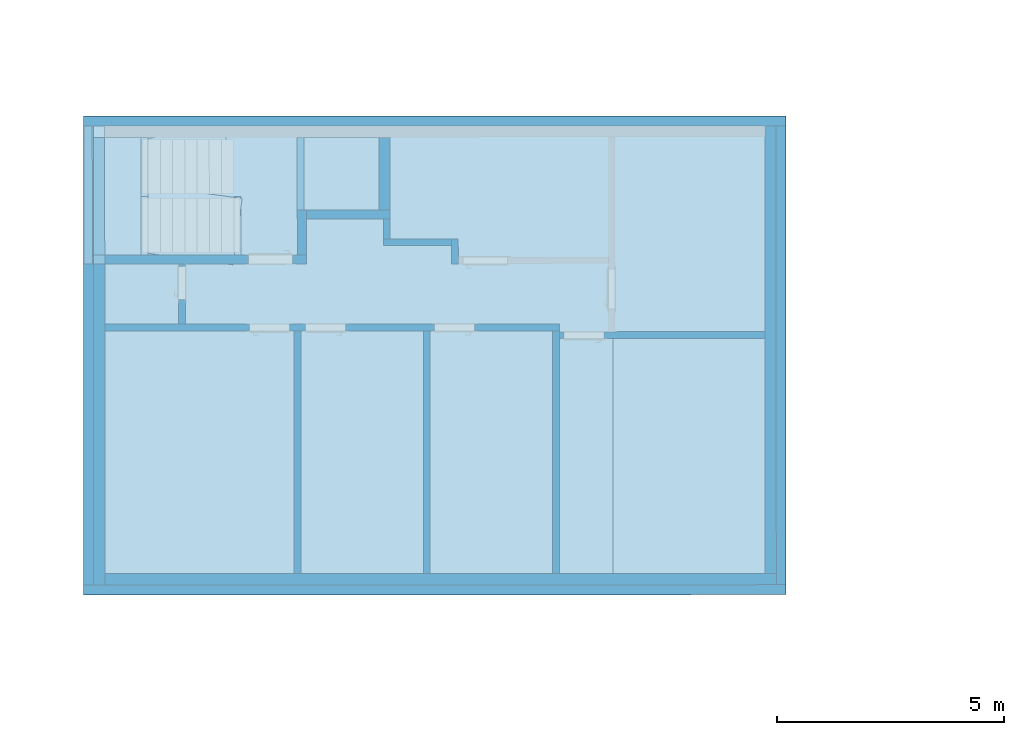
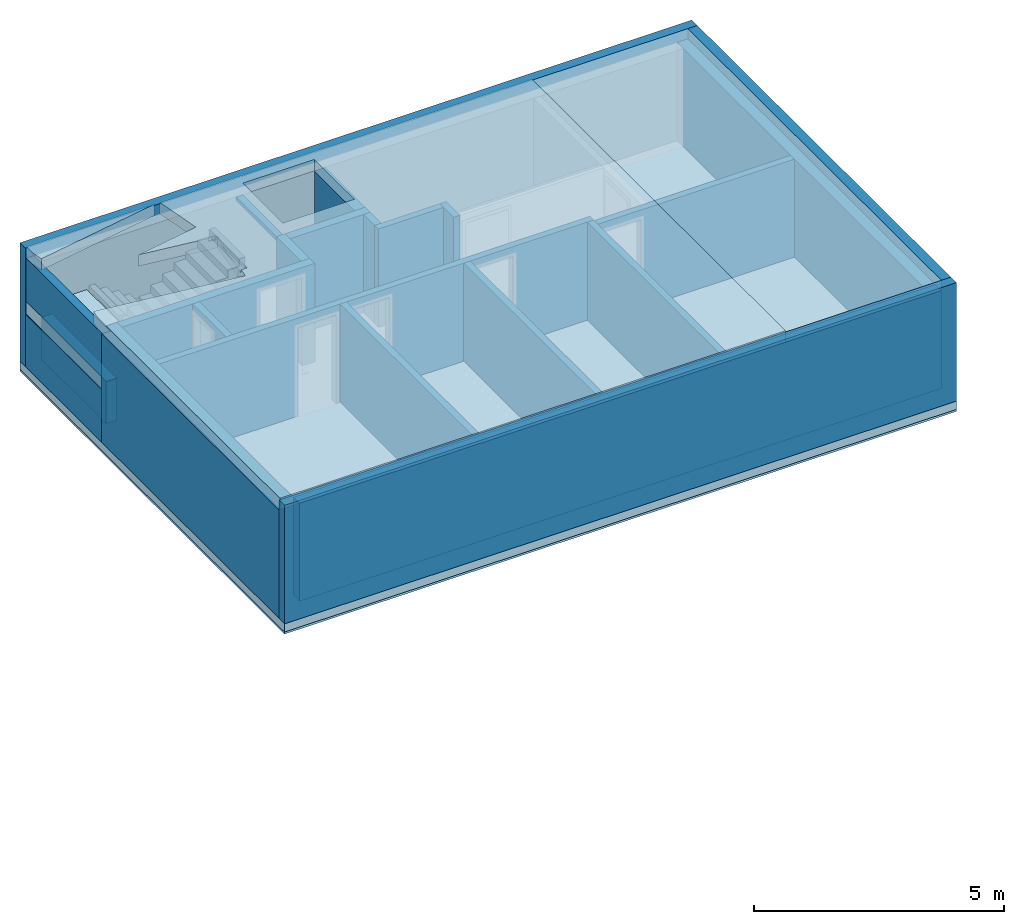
# One storey, part 1 of 9: 23 walls, 6 slabs, 1 beam, 12 openings.
"""IFC2X3 building model written with IfcOpenShell, lengths in metres."""

from ifc_helpers import new_model, entity, si_unit, converted_unit, derived_unit, direction, frame, frame_2d, origin, origin_with_axes, place, context, subcontext, project, spatial, polyline, rectangle, outline, extrude, faceted_brep, material, layer, layer_set, layer_usage, element, save


model = new_model("IFC2X3")

# Units and contexts
model_context = context("Model", 3, precision=1e-05, world=origin(), true_north=direction((0.772621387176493, -0.634867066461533)))
body_context = subcontext(model_context, "Body", "Model", "MODEL_VIEW")
ifc_project = project(units=[si_unit("LENGTHUNIT", "METRE"), si_unit("AREAUNIT", "SQUARE_METRE"), si_unit("VOLUMEUNIT", "CUBIC_METRE"), si_unit("MASSUNIT", "GRAM", prefix="KILO"), converted_unit("PLANEANGLEUNIT", "DEGREE", entity("IfcPlaneAngleMeasure", 0.0174532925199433), si_unit("PLANEANGLEUNIT", "RADIAN"), dimensions=[0, 0, 0, 0, 0, 0, 0]), derived_unit("THERMALTRANSMITTANCEUNIT", [(si_unit("POWERUNIT", "WATT"), 1), (si_unit("THERMODYNAMICTEMPERATUREUNIT", "KELVIN"), -1), (si_unit("LENGTHUNIT", "METRE"), -2)]), derived_unit("VOLUMETRICFLOWRATEUNIT", [(si_unit("LENGTHUNIT", "METRE"), 3), (converted_unit("TIMEUNIT", "hour", entity("IfcTimeMeasure", 3600.0), si_unit("TIMEUNIT", "SECOND"), dimensions=[0, 0, 1, 0, 0, 0, 0]), -1), (si_unit("LENGTHUNIT", "METRE"), -1)])], contexts=[model_context])

# Site, building, storey
site_placement = place(None, origin())
site = spatial("IfcSite", under=ifc_project, at=site_placement, Name="Modelle auf dem Nullpunkt", CompositionType="ELEMENT")
building_placement = place(site_placement, origin())
building = spatial("IfcBuilding", under=site, at=building_placement, Name="I", CompositionType="ELEMENT")
storey_placement = place(building_placement, origin())
storey = spatial("IfcBuildingStorey", under=building, at=storey_placement, Name="UG", CompositionType="ELEMENT", Elevation=0.0)

# Beam
ifc_material_1 = material(Name="Béton")
beam_placement = place(storey_placement, frame((29.5430046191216, -0.853323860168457, 434.56), z_axis=(0.0, 0.0, 1.0), x_axis=(-0.000353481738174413, 0.999999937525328, 0.0)))
element("IfcBeam", 1, at=beam_placement, inside=storey, material=ifc_material_1, context=body_context, shape_type="SweptSolid", body=[
    extrude(rectangle(XDim=0.179999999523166, YDim=1.05, at=frame_2d((0.0899999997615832, 0.525), x_axis=(1.0, 0.0))), frame((0.0, 0.0, 0.0), z_axis=(1.0, 0.0, 0.0), x_axis=(0.0, 1.0, 0.0)), (0.0, 0.0, 1.0), 3.04000000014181),
])

# Slabs
ifc_material_2 = material(Name="NPK 0")
slab_1_placement = place(storey_placement, frame((29.3468522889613, -8.15339234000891, 432.72)))
element("IfcSlab", 2, at=slab_1_placement, inside=storey, material=ifc_material_2, PredefinedType="BASESLAB", context=body_context, shape_type="SweptSolid", body=[
    extrude(rectangle(XDim=10.5599999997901, YDim=15.495000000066, at=frame_2d((7.74936589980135, -5.277261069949), x_axis=(0.0003534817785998, -0.999999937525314))), frame((0.0, 10.5599993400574, 0.0), z_axis=(0.0, 0.0, 1.0), x_axis=(1.0, 0.0, 0.0)), (0.0, 0.0, 1.0), 0.05),
])
ifc_material_3 = material(Name="NPK 0")
slab_2_placement = place(storey_placement, frame((29.3468522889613, -8.15339234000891, 432.77)))
element("IfcSlab", 3, at=slab_2_placement, inside=storey, material=ifc_material_3, PredefinedType="BASESLAB", context=body_context, shape_type="SweptSolid", body=[
    extrude(rectangle(XDim=10.5599999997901, YDim=15.495000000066, at=frame_2d((7.74936589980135, -5.277261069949), x_axis=(0.0003534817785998, -0.999999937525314))), frame((0.0, 10.5599993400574, 0.0), z_axis=(0.0, 0.0, 1.0), x_axis=(1.0, 0.0, 0.0)), (0.0, 0.0, 1.0), 0.2),
])

# Slab, openings
ifc_material_4 = material(Name="Béton")
slab_3_placement = place(storey_placement, frame((29.362051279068, -0.853387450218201, 434.25)))
slab_3 = element("IfcSlab", 4, at=slab_3_placement, inside=storey, material=ifc_material_4, PredefinedType="FLOOR", context=body_context, shape_type="SweptSolid", body=[
    extrude(outline(polyline([(0.454878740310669, 3.04016060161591), (0.0, 3.03999981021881), (0.00107458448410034, 0.0), (0.455953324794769, 0.000160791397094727), (0.455882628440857, 0.200160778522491), (1.41121739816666, 0.200498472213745), (1.41030188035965, 2.79049831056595), (0.45496711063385, 2.7901606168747), (0.454878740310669, 3.04016060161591)])), origin_with_axes(), (0.0, 0.0, 1.0), 0.31),
])
opening_1_placement = place(slab_3_placement, frame((1.25575823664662, 0.200443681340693, 0.21)))
element("IfcOpeningElement", 5, at=opening_1_placement, cuts=slab_3, Name="Beton", ObjectType="Recess", context=body_context, shape_type="SweptSolid", body=[
    extrude(rectangle(XDim=0.155003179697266, YDim=1.29000000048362, at=frame_2d((0.0, 0.0), x_axis=(-0.999999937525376, -0.000353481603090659))), frame((0.0777295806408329, 0.645027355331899, 0.0), z_axis=(0.0, 0.0, 1.0), x_axis=(1.0, 0.0, 0.0)), (0.0, 0.0, 1.0), 0.1),
])
opening_2_placement = place(slab_3_placement, frame((1.25529871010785, 1.49044360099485, 0.120038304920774)))
element("IfcOpeningElement", 6, at=opening_2_placement, cuts=slab_3, Name="Beton", ObjectType="Recess", context=body_context, shape_type="SweptSolid", body=[
    extrude(rectangle(XDim=0.155003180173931, YDim=1.29999999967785, at=frame_2d((0.0, 0.0), x_axis=(-0.999999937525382, -0.000353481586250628))), frame((0.077731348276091, 0.650027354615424, 0.0), z_axis=(0.0, 0.0, 1.0), x_axis=(1.0, 0.0, 0.0)), (0.0, 0.0, 1.0), 0.189961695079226),
])

# Slab
ifc_material_5 = material(Name="Béton")
slab_4_placement = place(storey_placement, frame((41.0269293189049, -7.92926367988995, 435.61)))
element("IfcSlab", 7, at=slab_4_placement, inside=storey, material=ifc_material_5, PredefinedType="FLOOR", context=body_context, shape_type="SweptSolid", body=[
    extrude(rectangle(XDim=10.1199999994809, YDim=3.59500000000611, at=frame_2d((-1.79928850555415, 5.05936430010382), x_axis=(-0.000353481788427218, 0.999999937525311))), frame((3.5985770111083, 0.00127076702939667, 0.0), z_axis=(0.0, 0.0, 1.0), x_axis=(1.0, 0.0, 0.0)), (0.0, 0.0, 1.0), 0.25),
])

# Slab, openings
ifc_material_6 = material(Name="Béton")
slab_5_placement = place(storey_placement, frame((29.3669300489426, -7.93338528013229, 435.61)))
slab_5 = element("IfcSlab", 8, at=slab_5_placement, inside=storey, material=ifc_material_6, PredefinedType="FLOOR", context=body_context, shape_type="SweptSolid", body=[
    extrude(outline(polyline([(11.6599992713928, 10.1241209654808), (0.0, 10.1199993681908), (8.83703231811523e-05, 9.86999938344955), (0.200486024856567, 8.74507015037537), (0.00100388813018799, 7.27999954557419), (0.00357723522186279, 0.0), (11.6635765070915, 0.00412159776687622), (11.6599992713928, 10.1241209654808)]), holes=[polyline([(6.49565353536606, 8.27229534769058), (4.84565363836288, 8.27171210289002), (4.84508806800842, 9.87171200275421), (6.4950879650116, 9.87229524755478), (6.49565353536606, 8.27229534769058)])]), origin_with_axes(), (0.0, 0.0, 1.0), 0.28),
])
opening_3_placement = place(slab_5_placement, frame((3.29592341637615, 7.28116440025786, 0.20192331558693)))
element("IfcOpeningElement", 9, at=opening_3_placement, cuts=slab_5, Name="Beton", ObjectType="Recess", context=body_context, shape_type="SweptSolid", body=[
    extrude(rectangle(XDim=0.154999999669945, YDim=1.29000000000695, at=frame_2d((0.0, 0.0), x_axis=(-0.999999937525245, -0.000353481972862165))), frame((0.0777279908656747, 0.645027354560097, 0.0), z_axis=(0.0, 0.0, 1.0), x_axis=(1.0, 0.0, 0.0)), (0.0, 0.0, 1.0), 0.0780766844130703),
])
opening_4_placement = place(slab_5_placement, frame((0.0160680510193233, 7.0582860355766, 0.0)))
element("IfcOpeningElement", 10, at=opening_4_placement, cuts=slab_5, Name="Deckendurchbruch", ObjectType="Opening", context=body_context, shape_type="SweptSolid", body=[
    extrude(rectangle(XDim=3.29537572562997, YDim=1.47858885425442, at=frame_2d((0.0, 0.0), x_axis=(-0.990857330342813, 0.134913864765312))), frame((1.7323646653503, 0.954831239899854, 0.0), z_axis=(0.0, 0.0, 1.0), x_axis=(1.0, 0.0, 0.0)), (0.0, 0.0, 1.0), 0.28),
])
opening_5_placement = place(slab_5_placement, frame((0.0240765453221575, 8.47418164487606, 0.0)))
element("IfcOpeningElement", 11, at=opening_5_placement, cuts=slab_5, Name="Deckendurchbruch", ObjectType="Opening", context=body_context, shape_type="SweptSolid", body=[
    extrude(rectangle(XDim=3.0953757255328, YDim=1.14263948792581, at=frame_2d((0.0, 0.0), x_axis=(-0.984500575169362, -0.175381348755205))), frame((1.62389841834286, 0.833900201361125, 0.0), z_axis=(0.0, 0.0, 1.0), x_axis=(1.0, 0.0, 0.0)), (0.0, 0.0, 1.0), 0.28),
])

# Slab
ifc_material_7 = material(Name="Béton")
slab_6_placement = place(storey_placement, frame((29.5669300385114, -7.93331459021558, 432.97)))
element("IfcSlab", 12, at=slab_6_placement, inside=storey, material=ifc_material_7, PredefinedType="BASESLAB", context=body_context, shape_type="SweptSolid", body=[
    extrude(rectangle(XDim=15.0549999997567, YDim=10.1199999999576, at=frame_2d((-7.52571091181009, -5.06266051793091), x_axis=(-0.999999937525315, -0.000353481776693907))), frame((15.0549990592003, 10.1253210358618, 0.0), z_axis=(0.0, 0.0, 1.0), x_axis=(1.0, 0.0, 0.0)), (0.0, 0.0, 1.0), 0.25),
])

# Walls
ifc_material_8 = material(Name="Brique silico-calcaire")
ifc_layer_1 = layer(ifc_material_8, 0.149999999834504)
ifc_layer_set_1 = layer_set([ifc_layer_1])
ifc_layer_usage_1 = layer_usage(ifc_layer_set_1, "AXIS2", "POSITIVE", 0.0)
wall_1_placement = place(storey_placement, frame((39.8454182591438, -7.67968258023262, 433.22), z_axis=(0.0, 0.0, 1.0), x_axis=(-0.000353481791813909, 0.99999993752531, 0.0)))
element("IfcWallStandardCase", 13, at=wall_1_placement, inside=storey, material=ifc_layer_usage_1, context=body_context, shape_type="SweptSolid", body=[
    extrude(rectangle(XDim=5.35000000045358, YDim=0.149999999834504, at=frame_2d((2.67500000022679, 0.074999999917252), x_axis=(1.0, 0.0))), origin_with_axes(), (0.0, 0.0, 1.0), 2.39),
])
ifc_material_9 = material(Name="Brique silico-calcaire")
ifc_layer_2 = layer(ifc_material_9, 0.150000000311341)
ifc_layer_set_2 = layer_set([ifc_layer_2])
ifc_layer_usage_2 = layer_usage(ifc_layer_set_2, "AXIS2", "POSITIVE", -4.52337204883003e-16)
wall_2_placement = place(storey_placement, frame((33.9935274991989, -2.33175078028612, 433.22), z_axis=(0.0, 0.0, 1.0), x_axis=(0.000353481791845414, -0.999999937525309, 0.0)))
element("IfcWallStandardCase", 14, at=wall_2_placement, inside=storey, material=ifc_layer_usage_2, context=body_context, shape_type="SweptSolid", body=[
    extrude(rectangle(XDim=5.34999999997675, YDim=0.150000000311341, at=frame_2d((2.67499999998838, 0.0750000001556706), x_axis=(1.0, 0.0))), origin_with_axes(), (0.0, 0.0, 1.0), 2.39),
])
ifc_material_10 = material(Name="Brique silico-calcaire")
ifc_layer_3 = layer(ifc_material_10, 0.149999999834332)
ifc_layer_set_3 = layer_set([ifc_layer_3])
ifc_layer_usage_3 = layer_usage(ifc_layer_set_3, "AXIS2", "POSITIVE", -9.09494644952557e-16)
wall_3_placement = place(storey_placement, frame((36.8435273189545, -2.33074336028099, 433.22), z_axis=(0.0, 0.0, 1.0), x_axis=(0.000353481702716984, -0.999999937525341, 0.0)))
element("IfcWallStandardCase", 15, at=wall_3_placement, inside=storey, material=ifc_layer_usage_3, context=body_context, shape_type="SweptSolid", body=[
    extrude(rectangle(XDim=5.34999999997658, YDim=0.149999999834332, at=frame_2d((2.67499999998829, 0.074999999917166), x_axis=(1.0, 0.0))), origin_with_axes(), (0.0, 0.0, 1.0), 2.39),
])
ifc_material_11 = material(Name="Béton")
ifc_layer_4 = layer(ifc_material_11, 0.249999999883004)
ifc_layer_set_4 = layer_set([ifc_layer_4])
ifc_layer_usage_4 = layer_usage(ifc_layer_set_4, "AXIS2", "POSITIVE", -6.21763011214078e-16)
wall_4_placement = place(storey_placement, frame((44.6254179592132, -7.67799293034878, 433.22), z_axis=(0.0, 0.0, 1.0), x_axis=(-0.000353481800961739, 0.999999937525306, 0.0)))
element("IfcWallStandardCase", 16, at=wall_4_placement, inside=storey, material=ifc_layer_usage_4, Name="Betonwand", context=body_context, shape_type="SweptSolid", body=[
    extrude(rectangle(XDim=9.87000000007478, YDim=0.249999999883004, at=frame_2d((4.93500000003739, 0.124999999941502), x_axis=(1.0, 0.0))), origin_with_axes(), (0.0, 0.0, 1.0), 2.39),
])
ifc_material_12 = material(Name="Béton")
ifc_layer_5 = layer(ifc_material_12, 0.249999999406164)
ifc_layer_set_5 = layer_set([ifc_layer_5])
ifc_layer_usage_5 = layer_usage(ifc_layer_set_5, "AXIS2", "POSITIVE", -1.82284716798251e-15)
wall_5_placement = place(storey_placement, frame((29.8205072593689, -7.93322622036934, 433.22), z_axis=(0.0, 0.0, 1.0), x_axis=(0.9999999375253, 0.000353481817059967, 0.0)))
element("IfcWallStandardCase", 17, at=wall_5_placement, inside=storey, material=ifc_layer_usage_5, Name="Betonwand", context=body_context, shape_type="SweptSolid", body=[
    extrude(rectangle(XDim=14.8050000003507, YDim=0.249999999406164, at=frame_2d((7.40250000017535, 0.124999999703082), x_axis=(1.0, 0.0))), origin_with_axes(), (0.0, 0.0, 1.0), 2.39),
])
ifc_material_13 = material(Name="Isolation périphérique")
ifc_layer_6 = layer(ifc_material_13, 0.219999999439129)
ifc_layer_set_6 = layer_set([ifc_layer_6])
ifc_layer_usage_6 = layer_usage(ifc_layer_set_6, "AXIS2", "POSITIVE", -7.07277615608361e-18)
wall_6_placement = place(storey_placement, frame((29.3505850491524, -8.15339234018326, 432.97), z_axis=(0.0, 0.0, 1.0), x_axis=(0.999999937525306, 0.000353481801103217, 0.0)))
element("IfcWallStandardCase", 18, at=wall_6_placement, inside=storey, material=ifc_layer_usage_6, context=body_context, shape_type="SweptSolid", body=[
    extrude(rectangle(XDim=15.495000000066, YDim=0.219999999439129, at=frame_2d((7.747500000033, 0.109999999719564), x_axis=(1.0, 0.0))), origin_with_axes(), (0.0, 0.0, 1.0), 2.89),
])
ifc_material_14 = material(Name="Isolation périphérique")
ifc_layer_7 = layer(ifc_material_14, 0.219999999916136)
ifc_layer_set_7 = layer_set([ifc_layer_7])
ifc_layer_usage_7 = layer_usage(ifc_layer_set_7, "AXIS2", "POSITIVE", -1.37516512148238e-16)
wall_7_placement = place(storey_placement, frame((44.8418513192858, 2.41208419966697, 432.97), z_axis=(0.0, 0.0, 1.0), x_axis=(-0.999999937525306, -0.000353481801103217, 0.0)))
element("IfcWallStandardCase", 19, at=wall_7_placement, inside=storey, material=ifc_layer_usage_7, context=body_context, shape_type="SweptSolid", body=[
    extrude(rectangle(XDim=15.495000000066, YDim=0.219999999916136, at=frame_2d((7.747500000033, 0.109999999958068), x_axis=(1.0, 0.0))), origin_with_axes(), (0.0, 0.0, 1.0), 2.89),
])
ifc_material_15 = material(Name="Isolation périphérique")
ifc_layer_8 = layer(ifc_material_15, 0.219999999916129)
ifc_layer_set_8 = layer_set([ifc_layer_8])
ifc_layer_usage_8 = layer_usage(ifc_layer_set_8, "AXIS2", "POSITIVE", -6.49428629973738e-17)
wall_8_placement = place(storey_placement, frame((44.845506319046, -7.9279151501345, 432.97), z_axis=(0.0, 0.0, 1.0), x_axis=(-0.000353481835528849, 0.999999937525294, 0.0)))
element("IfcWallStandardCase", 20, at=wall_8_placement, inside=storey, material=ifc_layer_usage_8, context=body_context, shape_type="SweptSolid", body=[
    extrude(rectangle(XDim=10.119999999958, YDim=0.219999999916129, at=frame_2d((5.059999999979, 0.109999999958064), x_axis=(1.0, 0.0))), origin_with_axes(), (0.0, 0.0, 1.0), 2.89),
])
ifc_material_16 = material(Name="Brique silico-calcaire")
ifc_layer_9 = layer(ifc_material_16, 0.1499999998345)
ifc_layer_set_9 = layer_set([ifc_layer_9])
ifc_layer_usage_9 = layer_usage(ifc_layer_set_9, "AXIS2", "POSITIVE", 0.0)
wall_9_placement = place(storey_placement, frame((37.6130041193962, -0.8504712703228, 433.22), z_axis=(0.0, 0.0, 1.0), x_axis=(-0.000353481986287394, 0.999999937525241, 0.0)))
element("IfcWallStandardCase", 21, at=wall_9_placement, inside=storey, material=ifc_layer_usage_9, context=body_context, shape_type="SweptSolid", body=[
    extrude(rectangle(XDim=0.550000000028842, YDim=0.1499999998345, at=frame_2d((0.275000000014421, 0.0749999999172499), x_axis=(1.0, 0.0))), origin_with_axes(), (0.0, 0.0, 1.0), 2.39),
])
ifc_material_17 = material(Name="Béton")
ifc_layer_10 = layer(ifc_material_17, 0.200000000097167)
ifc_layer_set_10 = layer_set([ifc_layer_10])
ifc_layer_usage_10 = layer_usage(ifc_layer_set_10, "AXIS2", "POSITIVE", -1.60744690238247e-19)
wall_10_placement = place(storey_placement, frame((34.2629336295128, -0.651655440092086, 433.22), z_axis=(0.0, 0.0, 1.0), x_axis=(-0.000353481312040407, 0.999999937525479, 0.0)))
element("IfcWallStandardCase", 22, at=wall_10_placement, inside=storey, material=ifc_layer_usage_10, Name="Betonwand", context=body_context, shape_type="SweptSolid", body=[
    extrude(rectangle(XDim=0.989999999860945, YDim=0.200000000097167, at=frame_2d((0.494999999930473, 0.100000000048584), x_axis=(1.0, 0.0))), origin_with_axes(), (0.0, 0.0, 1.0), 2.39),
])
ifc_material_18 = material(Name="Béton")
ifc_layer_11 = layer(ifc_material_18, 0.249999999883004)
ifc_layer_set_11 = layer_set([ifc_layer_11])
ifc_layer_usage_11 = layer_usage(ifc_layer_set_11, "AXIS2", "POSITIVE", -2.90070918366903e-16)
wall_11_placement = place(storey_placement, frame((35.8620180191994, 1.93890996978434, 433.22), z_axis=(0.0, 0.0, 1.0), x_axis=(0.000353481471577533, -0.999999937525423, 0.0)))
element("IfcWallStandardCase", 23, at=wall_11_placement, inside=storey, material=ifc_layer_usage_11, Name="Betonwand", context=body_context, shape_type="SweptSolid", body=[
    extrude(rectangle(XDim=1.59999999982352, YDim=0.249999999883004, at=frame_2d((0.79999999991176, 0.124999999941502), x_axis=(1.0, 0.0))), origin_with_axes(), (0.0, 0.0, 1.0), 2.39),
])
ifc_material_19 = material(Name="Béton")
ifc_layer_12 = layer(ifc_material_19, 0.200000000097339)
ifc_layer_set_12 = layer_set([ifc_layer_12])
ifc_layer_usage_12 = layer_usage(ifc_layer_set_12, "AXIS2", "POSITIVE", -5.68112663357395e-16)
wall_12_placement = place(storey_placement, frame((34.2626543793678, 0.138344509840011, 433.22), z_axis=(0.0, 0.0, 1.0), x_axis=(0.99999993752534, 0.000353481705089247, 0.0)))
element("IfcWallStandardCase", 24, at=wall_12_placement, inside=storey, material=ifc_layer_usage_12, Name="Betonwand", context=body_context, shape_type="SweptSolid", body=[
    extrude(rectangle(XDim=1.85000000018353, YDim=0.200000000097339, at=frame_2d((0.925000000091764, 0.10000000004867), x_axis=(1.0, 0.0))), origin_with_axes(), (0.0, 0.0, 1.0), 2.39),
])
ifc_material_20 = material(Name="Brique silico-calcaire")
ifc_layer_13 = layer(ifc_material_20, 0.150000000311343)
ifc_layer_set_13 = layer_set([ifc_layer_13])
ifc_layer_usage_13 = layer_usage(ifc_layer_set_13, "AXIS2", "POSITIVE", -4.82251460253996e-16)
wall_13_placement = place(storey_placement, frame((35.962654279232, 0.138945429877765, 433.22), z_axis=(0.0, 0.0, 1.0), x_axis=(0.000353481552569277, -0.999999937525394, 0.0)))
element("IfcWallStandardCase", 25, at=wall_13_placement, inside=storey, material=ifc_layer_usage_13, context=body_context, shape_type="SweptSolid", body=[
    extrude(rectangle(XDim=0.440000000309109, YDim=0.150000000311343, at=frame_2d((0.220000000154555, 0.0750000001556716), x_axis=(1.0, 0.0))), origin_with_axes(), (0.0, 0.0, 1.0), 2.39),
])
ifc_material_21 = material(Name="Brique silico-calcaire")
ifc_layer_14 = layer(ifc_material_21, 0.14999999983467)
ifc_layer_set_14 = layer_set([ifc_layer_14])
ifc_layer_usage_14 = layer_usage(ifc_layer_set_14, "AXIS2", "POSITIVE", -3.66859028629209e-17)
wall_14_placement = place(storey_placement, frame((37.4628097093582, -0.300524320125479, 433.22), z_axis=(0.0, 0.0, 1.0), x_axis=(-0.999999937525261, -0.000353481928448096, 0.0)))
element("IfcWallStandardCase", 26, at=wall_14_placement, inside=storey, material=ifc_layer_usage_14, context=body_context, shape_type="SweptSolid", body=[
    extrude(rectangle(XDim=1.50000000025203, YDim=0.14999999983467, at=frame_2d((0.750000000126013, 0.074999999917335), x_axis=(1.0, 0.0))), origin_with_axes(), (0.0, 0.0, 1.0), 2.39),
])
ifc_material_22 = material(Name="Isolation périphérique")
ifc_layer_15 = layer(ifc_material_22, 0.219999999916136)
ifc_layer_set_15 = layer_set([ifc_layer_15])
ifc_layer_usage_15 = layer_usage(ifc_layer_set_15, "AXIS2", "POSITIVE", -4.08888373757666e-17)
wall_15_placement = place(storey_placement, frame((29.5705072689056, -7.93331459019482, 432.97), z_axis=(0.0, 0.0, 1.0), x_axis=(-0.000353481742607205, 0.999999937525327, 0.0)))
element("IfcWallStandardCase", 27, at=wall_15_placement, inside=storey, material=ifc_layer_usage_15, context=body_context, shape_type="SweptSolid", body=[
    extrude(rectangle(XDim=7.08000000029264, YDim=0.219999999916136, at=frame_2d((3.54000000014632, 0.109999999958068), x_axis=(1.0, 0.0))), origin_with_axes(), (0.0, 0.0, 1.0), 2.64),
])
ifc_material_23 = material(Name="Isolation périphérique")
ifc_layer_16 = layer(ifc_material_23, 0.220000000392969)
ifc_layer_set_16 = layer_set([ifc_layer_16])
ifc_layer_usage_16 = layer_usage(ifc_layer_set_16, "AXIS2", "POSITIVE", -5.11590737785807e-16)
wall_16_placement = place(storey_placement, frame((29.5680046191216, -0.853315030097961, 432.97), z_axis=(0.0, 0.0, 1.0), x_axis=(-0.000353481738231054, 0.999999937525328, 0.0)))
element("IfcWallStandardCase", 28, at=wall_16_placement, inside=storey, material=ifc_layer_usage_16, context=body_context, shape_type="SweptSolid", body=[
    extrude(rectangle(XDim=3.03999999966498, YDim=0.220000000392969, at=frame_2d((1.51999999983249, 0.110000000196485), x_axis=(1.0, 0.0))), origin_with_axes(), (0.0, 0.0, 1.0), 1.28),
])
ifc_material_24 = material(Name="Béton")
ifc_layer_17 = layer(ifc_material_24, 0.249999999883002)
ifc_layer_set_17 = layer_set([ifc_layer_17])
ifc_layer_usage_17 = layer_usage(ifc_layer_set_17, "AXIS2", "POSITIVE", -1.98114967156e-17)
wall_17_placement = place(storey_placement, frame((29.5670184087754, 1.93668479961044, 433.22), z_axis=(0.0, 0.0, 1.0), x_axis=(0.000353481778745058, -0.999999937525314, 0.0)))
element("IfcWallStandardCase", 29, at=wall_17_placement, inside=storey, material=ifc_layer_usage_17, Name="Betonwand", context=body_context, shape_type="SweptSolid", body=[
    extrude(rectangle(XDim=2.59000000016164, YDim=0.249999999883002, at=frame_2d((1.29500000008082, 0.124999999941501), x_axis=(1.0, 0.0))), origin_with_axes(), (0.0, 0.0, 1.0), 1.03),
])

# Wall, opening
ifc_material_25 = material(Name="Béton")
wall_18_placement = place(storey_placement, frame((34.0620181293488, 0.338273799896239, 433.22)))
wall_18 = element("IfcWall", 30, at=wall_18_placement, inside=storey, material=ifc_material_25, Name="Betonwand", context=body_context, shape_type="Brep", body=[
    faceted_brep([(0.0, 1.5999998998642, 0.0), (0.1499999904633, 1.60005292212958, 0.0), (0.1499999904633, 1.60005292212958, 2.39), (0.0, 1.5999998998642, 2.39), (0.150565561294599, 5.30222653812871e-05, 0.0), (0.150565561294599, 5.30222653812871e-05, 2.39), (0.000565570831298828, 0.0, 0.0), (0.000565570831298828, 0.0, 2.39)], [[[0, 1, 2, 3]], [[1, 4, 5, 2]], [[4, 6, 7, 5]], [[6, 0, 3, 7]], [[3, 2, 5, 7]], [[0, 6, 4, 1]]], orient=[[False], [False], [False], [False], [False], [False]]),
])
opening_6_placement = place(wall_18_placement, origin())
element("IfcOpeningElement", 31, at=opening_6_placement, cuts=wall_18, ObjectType="Opening", context=body_context, shape_type="Brep", body=[
    faceted_brep([(0.000565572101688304, 0.0, 0.0), (0.0, 1.59999990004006, 0.0), (0.0, 1.59999990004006, 2.3), (0.000565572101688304, 0.0, 2.3), (0.150565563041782, 5.30223846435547e-05, 0.0), (0.150565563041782, 5.30223846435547e-05, 2.3), (0.149999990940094, 1.6000529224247, 2.3), (0.149999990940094, 1.6000529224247, 0.0)], [[[0, 1, 2, 3]], [[4, 5, 6, 7]], [[1, 0, 4, 7]], [[2, 1, 7, 6]], [[3, 2, 6, 5]], [[0, 3, 5, 4]]], orient=[[False], [False], [False], [False], [False], [False]]),
])

# Wall
ifc_material_26 = material(Name="Béton")
wall_19_placement = place(storey_placement, frame((29.5679339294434, -7.93331459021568, 433.22)))
element("IfcWall", 32, at=wall_19_placement, inside=storey, material=ifc_material_26, Name="Betonwand", context=body_context, shape_type="Brep", body=[
    faceted_brep([(0.249999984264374, 7.28008791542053, 0.0), (0.0, 7.27999954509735, 0.0), (0.0025733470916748, 0.0, 0.0), (0.252573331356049, 8.83703231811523e-05, 0.0), (0.0, 7.27999954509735, 2.39), (0.249999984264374, 7.28008791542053, 2.39), (0.252573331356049, 8.83703231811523e-05, 2.39), (0.0025733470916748, 0.0, 2.39), (0.0, 7.27999954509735, 1.03), (0.249999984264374, 7.28008791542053, 1.03), (0.0, 7.27999954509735, 1.34), (7.06963539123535e-05, 7.07999955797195, 1.03), (7.06963539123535e-05, 7.07999955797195, 1.34), (0.250070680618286, 7.08008792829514, 1.34), (0.250070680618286, 7.08008792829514, 1.03), (0.249999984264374, 7.28008791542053, 1.34)], [[[0, 1, 2, 3]], [[4, 5, 6, 7]], [[8, 1, 0, 9]], [[10, 4, 7, 2, 1, 8, 11, 12]], [[3, 2, 7, 6]], [[13, 14, 9, 0, 3, 6, 5, 15]], [[15, 5, 4, 10]], [[9, 14, 11, 8]], [[10, 12, 13, 15]], [[12, 11, 14, 13]]], orient=[[False], [False], [False], [False], [False], [False], [False], [False], [False], [False]]),
])

# Wall, openings
ifc_material_27 = material(Name="Brique silico-calcaire")
wall_20_placement = place(storey_placement, frame((29.8184747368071, -2.33322656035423, 433.22)))
wall_20 = element("IfcWall", 33, at=wall_20_placement, inside=storey, material=ifc_material_27, context=body_context, shape_type="Brep", body=[
    faceted_brep([(5.30222680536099e-05, 0.0, 0.0), (0.0, 0.149999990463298, 0.0), (0.0, 0.149999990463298, 2.39), (5.30222680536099e-05, 0.0, 2.39), (10.0249993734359, 0.153543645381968, 0.0), (10.0249993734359, 0.153543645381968, 2.39), (10.025052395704, 0.00354365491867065, 0.0), (10.025052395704, 0.00354365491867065, 2.39)], [[[0, 1, 2, 3]], [[1, 4, 5, 2]], [[4, 6, 7, 5]], [[6, 0, 3, 7]], [[3, 2, 5, 7]], [[0, 6, 4, 1]]], orient=[[False], [False], [False], [False], [False], [False]]),
])
opening_7_placement = place(wall_20_placement, frame((4.42499972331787, 0.00156415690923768, 0.0)))
element("IfcOpeningElement", 34, at=opening_7_placement, cuts=wall_20, ObjectType="Opening", context=body_context, shape_type="Brep", body=[
    faceted_brep([(0.880052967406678, 0.000311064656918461, 0.0), (5.30223846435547e-05, 0.0, 0.0), (5.30223846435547e-05, 0.0, 2.17), (0.880052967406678, 0.000311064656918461, 2.17), (0.879999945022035, 0.150311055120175, 0.0), (0.879999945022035, 0.150311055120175, 2.17), (0.0, 0.149999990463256, 2.17), (0.0, 0.149999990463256, 0.0)], [[[0, 1, 2, 3]], [[4, 5, 6, 7]], [[1, 0, 4, 7]], [[2, 1, 7, 6]], [[3, 2, 6, 5]], [[0, 3, 5, 4]]], orient=[[False], [False], [False], [False], [False], [False]]),
])
opening_8_placement = place(wall_20_placement, frame((7.27499954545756, 0.00257158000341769, 0.0)))
element("IfcOpeningElement", 35, at=opening_8_placement, cuts=wall_20, ObjectType="Opening", context=body_context, shape_type="Brep", body=[
    faceted_brep([(0.880052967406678, 0.000311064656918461, 0.0), (5.30223846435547e-05, 0.0, 0.0), (5.30223846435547e-05, 0.0, 2.17), (0.880052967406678, 0.000311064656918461, 2.17), (0.879999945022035, 0.150311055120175, 0.0), (0.879999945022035, 0.150311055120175, 2.17), (0.0, 0.149999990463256, 2.17), (0.0, 0.149999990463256, 0.0)], [[[0, 1, 2, 3]], [[4, 5, 6, 7]], [[1, 0, 4, 7]], [[2, 1, 7, 6]], [[3, 2, 6, 5]], [[0, 3, 5, 4]]], orient=[[False], [False], [False], [False], [False], [False]]),
])
opening_9_placement = place(wall_20_placement, frame((3.19499980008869, 0.00112937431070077, 0.0)))
element("IfcOpeningElement", 36, at=opening_9_placement, cuts=wall_20, ObjectType="Opening", context=body_context, shape_type="Brep", body=[
    faceted_brep([(0.880052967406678, 0.000311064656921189, 0.0), (5.30223846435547e-05, 0.0, 0.0), (5.30223846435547e-05, 0.0, 2.17), (0.880052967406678, 0.000311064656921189, 2.17), (0.879999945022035, 0.15031105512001, 0.0), (0.879999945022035, 0.15031105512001, 2.17), (0.0, 0.149999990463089, 2.17), (0.0, 0.149999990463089, 0.0)], [[[0, 1, 2, 3]], [[4, 5, 6, 7]], [[1, 0, 4, 7]], [[2, 1, 7, 6]], [[3, 2, 6, 5]], [[0, 3, 5, 4]]], orient=[[False], [False], [False], [False], [False], [False]]),
])

# Wall, opening
ifc_material_28 = material(Name="Brique silico-calcaire")
wall_21_placement = place(storey_placement, frame((39.843534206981, -2.49968290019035, 433.22)))
wall_21 = element("IfcWall", 37, at=wall_21_placement, inside=storey, material=ifc_material_28, context=body_context, shape_type="Brep", body=[
    faceted_brep([(5.30222709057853e-05, 0.0, 0.0), (0.0, 0.149999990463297, 0.0), (0.0, 0.149999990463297, 2.39), (5.30222709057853e-05, 0.0, 2.39), (4.52999971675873, 0.151601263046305, 0.0), (4.52999971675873, 0.151601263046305, 2.39), (4.53005273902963, 0.00160127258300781, 0.0), (4.53005273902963, 0.00160127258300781, 2.39)], [[[0, 1, 2, 3]], [[1, 4, 5, 2]], [[4, 6, 7, 5]], [[6, 0, 3, 7]], [[3, 2, 5, 7]], [[0, 6, 4, 1]]], orient=[[False], [False], [False], [False], [False], [False]]),
])
opening_10_placement = place(wall_21_placement, frame((0.0999999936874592, 3.53481806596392e-05, 0.0)))
element("IfcOpeningElement", 38, at=opening_10_placement, cuts=wall_21, ObjectType="Opening", context=body_context, shape_type="Brep", body=[
    faceted_brep([(0.880052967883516, 0.000311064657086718, 0.0), (5.30223846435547e-05, 0.0, 0.0), (5.30223846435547e-05, 0.0, 2.17), (0.880052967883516, 0.000311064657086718, 2.17), (0.879999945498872, 0.150311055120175, 0.0), (0.879999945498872, 0.150311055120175, 2.17), (0.0, 0.149999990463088, 2.17), (0.0, 0.149999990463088, 0.0)], [[[0, 1, 2, 3]], [[4, 5, 6, 7]], [[1, 0, 4, 7]], [[2, 1, 7, 6]], [[3, 2, 6, 5]], [[0, 3, 5, 4]]], orient=[[False], [False], [False], [False], [False], [False]]),
])

ifc_material_29 = material(Name="Brique silico-calcaire")
wall_22_placement = place(storey_placement, frame((31.4480045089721, -2.18265039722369, 433.22)))
wall_22 = element("IfcWall", 39, at=wall_22_placement, inside=storey, material=ifc_material_29, context=body_context, shape_type="Brep", body=[
    faceted_brep([(0.0, 1.32999991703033, 0.0), (0.149999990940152, 1.33005293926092, 0.0), (0.149999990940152, 1.33005293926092, 2.39), (0.0, 1.32999991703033, 2.39), (0.150470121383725, 5.30222305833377e-05, 0.0), (0.150470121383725, 5.30222305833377e-05, 2.39), (0.000470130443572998, 0.0, 0.0), (0.000470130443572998, 0.0, 2.39)], [[[0, 1, 2, 3]], [[1, 4, 5, 2]], [[4, 6, 7, 5]], [[6, 0, 3, 7]], [[3, 2, 5, 7]], [[0, 6, 4, 1]]], orient=[[False], [False], [False], [False], [False], [False]]),
])
opening_11_placement = place(wall_22_placement, frame((2.12088921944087e-05, 0.539999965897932, 0.0)))
element("IfcOpeningElement", 40, at=opening_11_placement, cuts=wall_22, ObjectType="Opening", context=body_context, shape_type="Brep", body=[
    faceted_brep([(0.000258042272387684, 0.0, 0.0), (0.0, 0.729999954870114, 0.0), (0.0, 0.729999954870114, 2.17), (0.000258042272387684, 0.0, 2.17), (0.150258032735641, 5.30223846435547e-05, 0.0), (0.150258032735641, 5.30223846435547e-05, 2.17), (0.149999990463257, 0.730052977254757, 2.17), (0.149999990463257, 0.730052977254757, 0.0)], [[[0, 1, 2, 3]], [[4, 5, 6, 7]], [[1, 0, 4, 7]], [[2, 1, 7, 6]], [[3, 2, 6, 5]], [[0, 3, 5, 4]]], orient=[[False], [False], [False], [False], [False], [False]]),
])

ifc_material_30 = material(Name="Béton")
wall_23_placement = place(storey_placement, frame((29.8179339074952, -0.853226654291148, 433.22)))
wall_23 = element("IfcWall", 41, at=wall_23_placement, inside=storey, material=ifc_material_30, Name="Betonwand", context=body_context, shape_type="Brep", body=[
    faceted_brep([(4.44499972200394, 0.201571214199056, 0.0), (4.44507041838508, 0.00157122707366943, 0.0), (4.44507041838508, 0.00157122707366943, 2.39), (4.44499972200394, 0.201571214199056, 2.39), (7.06963811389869e-05, 0.0, 0.0), (7.06963811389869e-05, 0.0, 2.39), (0.0, 0.199999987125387, 0.0), (0.0, 0.199999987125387, 2.39)], [[[0, 1, 2, 3]], [[1, 4, 5, 2]], [[4, 6, 7, 5]], [[6, 0, 3, 7]], [[3, 2, 5, 7]], [[0, 6, 4, 1]]], orient=[[False], [False], [False], [False], [False], [False]]),
])
opening_12_placement = place(wall_23_placement, frame((3.16499980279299, 0.0011187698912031, 0.0)))
element("IfcOpeningElement", 42, at=opening_12_placement, cuts=wall_23, ObjectType="Opening", context=body_context, shape_type="Brep", body=[
    faceted_brep([(0.979999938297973, 0.200346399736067, 0.0), (0.979999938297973, 0.200346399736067, 2.17), (0.0, 0.199999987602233, 2.17), (0.0, 0.199999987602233, 0.0), (0.980070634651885, 0.000346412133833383, 0.0), (7.06963539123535e-05, 0.0, 0.0), (7.06963539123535e-05, 0.0, 2.17), (0.980070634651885, 0.000346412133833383, 2.17)], [[[0, 1, 2, 3]], [[4, 5, 6, 7]], [[3, 5, 4, 0]], [[2, 6, 5, 3]], [[1, 7, 6, 2]], [[0, 4, 7, 1]]], orient=[[False], [False], [False], [False], [False], [False]]),
])

save(model, "model.ifc")
